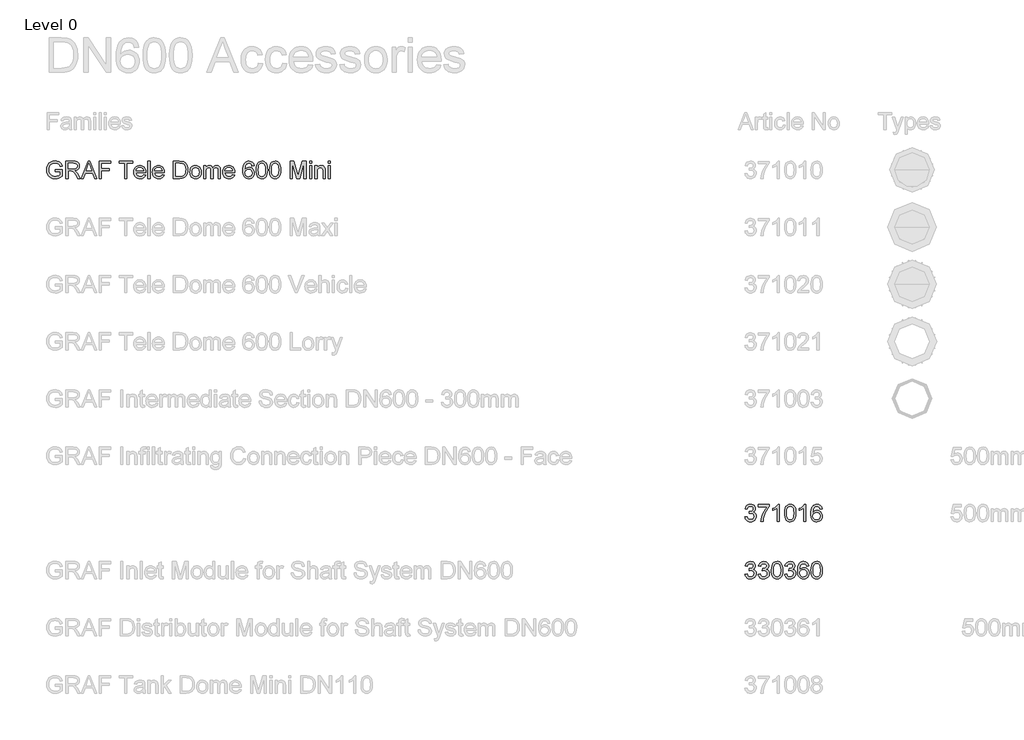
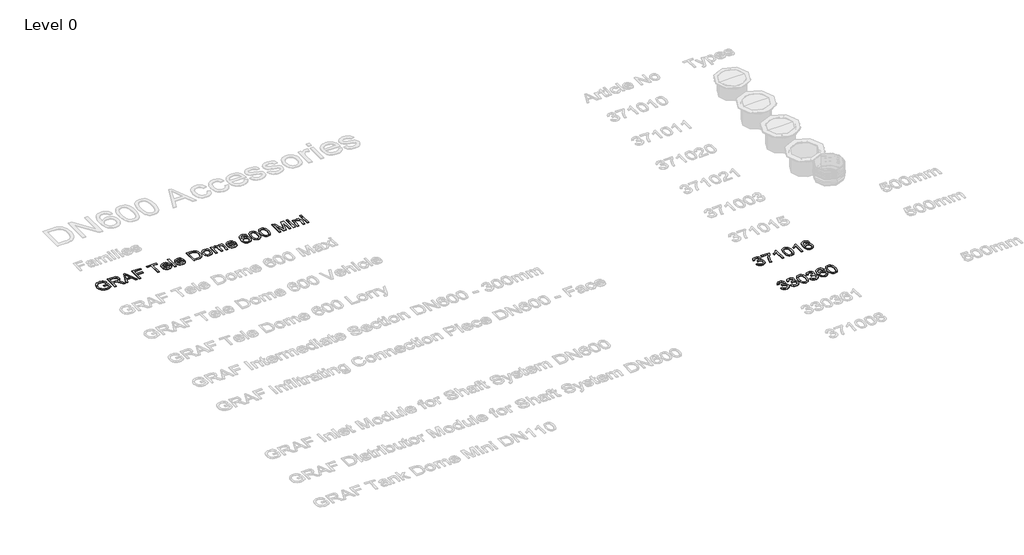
# One storey, part 21 of 25: 3 proxies.
"""IFC4 building model written with IfcOpenShell, lengths in millimetres."""

from ifc_helpers import new_model, si_unit, origin, origin_with_axes, place, context, project, spatial, polyline, outline, extrude, element, save

model = new_model("IFC4")

# Units and contexts
model_context = context("Model", 3, world=origin())
ifc_project = project(units=[si_unit("LENGTHUNIT", "METRE", prefix="MILLI")], contexts=[model_context])

# Site, building, storey
site = spatial("IfcSite", under=ifc_project)
building = spatial("IfcBuilding", under=site)
storey = spatial("IfcBuildingStorey", under=building, Name="Level 0", Elevation=0.0)

# Proxies
placement = place(None, origin())
element("IfcBuildingElementProxy", 1, Name="300mm Arial", ObjectType="300mm Arial", at=placement, inside=storey, context=model_context, shape_type="SweptSolid", body=[
    extrude(outline(polyline([(-15240.9940387, 7916.7454403), (-15240.9940387, 7954.4165566), (-15118.5629107, 7954.4165566), (-15118.5629107, 7841.7710897), (-15148.3153671, 7821.0777274), (-15179.0059225, 7806.2336889), (-15210.5610007, 7797.2941564), (-15242.9070251, 7794.3143123), (-15285.1674693, 7799.050793), (-15323.3628175, 7813.260235), (-15355.0926395, 7836.4459978), (-15377.9565055, 7868.1114405), (-15391.7796715, 7906.0952565), (-15396.3873935, 7948.2361391), (-15391.7980656, 7990.6805243), (-15378.0300819, 8030.1634594), (-15355.6536596, 8063.282036), (-15325.2390156, 8086.6333457), (-15288.1932987, 8100.4841028), (-15245.9236575, 8105.1010218), (-15214.8928112, 8102.4246803), (-15186.9889618, 8094.3956557), (-15163.4904994, 8081.5933623), (-15145.6758138, 8064.5972141), (-15132.4964413, 8042.5886738), (-15122.9039183, 8014.7492038), (-15157.6319786, 8004.9635427), (-15165.3850917, 8024.8199734), (-15174.8120678, 8039.8019677), (-15187.2832674, 8051.0959449), (-15204.169051, 8059.8883246), (-15224.3013932, 8065.5445103), (-15246.5122687, 8067.4299055), (-15272.5123287, 8065.3973575), (-15294.7415982, 8059.2997134), (-15313.1173039, 8049.9003284), (-15327.5566722, 8037.9625577), (-15346.9440533, 8008.9366683), (-15355.7732212, 7980.49939), (-15358.7162772, 7949.7812434), (-15355.175413, 7913.7563991), (-15344.5528204, 7884.1143073), (-15327.1703961, 7861.0665003), (-15303.3500369, 7844.8245102), (-15275.4737787, 7835.195199), (-15245.9236575, 7831.9854286), (-15219.831627, 7834.4042527), (-15194.3833899, 7841.6607251), (-15172.2828791, 7851.6579183), (-15156.234027, 7862.298905), (-15156.234027, 7916.7454403), (-15240.9940387, 7916.7454403)])), origin_with_axes(), (0.0, 0.0, 1.0), 10.0),
    extrude(outline(polyline([(-15057.3473467, 7799.0232018), (-15057.3473467, 8100.3921323), (-14927.4850024, 8100.3921323), (-14892.5821982, 8098.3595842), (-14867.1891434, 8092.2619402), (-14848.6294968, 8081.0047511), (-14834.2269167, 8063.4935682), (-14824.9838815, 8041.7793334), (-14821.9028698, 8017.912989), (-14827.0072325, 7988.2249119), (-14842.3203206, 7963.6136065), (-14853.9200997, 7953.5842236), (-14868.3019865, 7945.5689946), (-14905.4120827, 7935.5809984), (-14884.0013506, 7919.467767), (-14853.467145, 7880.6930048), (-14803.2144645, 7799.0232018), (-14846.9924219, 7799.0232018), (-14886.2086426, 7861.4895646), (-14914.5355562, 7902.8395009), (-14934.4379722, 7922.3740348), (-14952.3538253, 7929.5477337), (-14974.2060158, 7930.8721089), (-15019.6762304, 7930.8721089), (-15019.6762304, 7799.0232018), (-15057.3473467, 7799.0232018)]), holes=[polyline([(-15019.6762304, 7968.5432252), (-14935.3576771, 7968.5432252), (-14911.1418448, 7969.8767974), (-14892.3522719, 7973.8775141), (-14878.2072092, 7980.8120897), (-14867.9249074, 7990.9472387), (-14861.6617165, 8003.2069062), (-14859.5739861, 8016.5150374), (-14863.5563087, 8034.890743), (-14875.5032765, 8049.6979933), (-14896.058683, 8059.4652603), (-14925.8663217, 8062.721016), (-15019.6762304, 8062.721016), (-15019.6762304, 7968.5432252)])]), origin_with_axes(), (0.0, 0.0, 1.0), 10.0),
    extrude(outline(polyline([(-14791.0743586, 7799.0232018), (-14670.7769462, 8100.3921323), (-14638.6976362, 8100.3921323), (-14518.4002238, 7799.0232018), (-14558.2050557, 7799.0232018), (-14592.7123868, 7893.2009926), (-14716.835772, 7893.2009926), (-14751.2695268, 7799.0232018), (-14791.0743586, 7799.0232018)]), holes=[polyline([(-14703.003409, 7930.8721089), (-14606.4711735, 7930.8721089), (-14633.6208647, 8004.9635427), (-14654.7372912, 8062.721016), (-14673.499273, 8011.4382658), (-14703.003409, 7930.8721089)])]), origin_with_axes(), (0.0, 0.0, 1.0), 10.0),
    extrude(outline(polyline([(-14478.1539335, 7799.0232018), (-14478.1539335, 8100.3921323), (-14275.6716834, 8100.3921323), (-14275.6716834, 8062.721016), (-14440.4828172, 8062.721016), (-14440.4828172, 7973.2521147), (-14299.2161311, 7973.2521147), (-14299.2161311, 7935.5809984), (-14440.4828172, 7935.5809984), (-14440.4828172, 7799.0232018), (-14478.1539335, 7799.0232018)])), origin_with_axes(), (0.0, 0.0, 1.0), 10.0),
    extrude(outline(polyline([(-14030.8094274, 7799.0232018), (-14030.8094274, 8062.721016), (-14129.6961077, 8062.721016), (-14129.6961077, 8100.3921323), (-13894.2516308, 8100.3921323), (-13894.2516308, 8062.721016), (-13993.1383111, 8062.721016), (-13993.1383111, 7799.0232018), (-14030.8094274, 7799.0232018)])), origin_with_axes(), (0.0, 0.0, 1.0), 10.0),
    extrude(outline(polyline([(-13701.6286181, 7864.9476554), (-13664.6932658, 7860.2387658), (-13678.001397, 7832.4084929), (-13699.2373851, 7811.6047661), (-13727.9229837, 7798.6369257), (-13763.5799461, 7794.3143123), (-13786.9542484, 7796.1790141), (-13807.7809678, 7801.7731197), (-13826.0601045, 7811.0966291), (-13841.7916583, 7824.1495421), (-13854.4422004, 7840.5685754), (-13863.4783019, 7859.9904455), (-13868.8999628, 7882.4151523), (-13870.7071831, 7907.842696), (-13868.8815687, 7934.1324631), (-13863.4047255, 7957.3044302), (-13854.2766535, 7977.3585975), (-13841.4973527, 7994.2949649), (-13825.8071856, 8007.7502488), (-13807.9465147, 8017.361166), (-13787.9153401, 8023.1277162), (-13765.7136617, 8025.0498997), (-13744.2270539, 8023.1323148), (-13724.7959868, 8017.3795601), (-13707.4204603, 8007.7916356), (-13692.1004744, 7994.3685413), (-13679.5947859, 7977.4689621), (-13670.6621512, 7957.451583), (-13665.3025704, 7934.3164041), (-13663.5160434, 7908.0634252), (-13663.7367726, 7897.9098821), (-13833.0360668, 7897.9098821), (-13826.5153584, 7869.7117272), (-13811.3678173, 7848.9815768), (-13789.5064297, 7836.2344656), (-13762.8441821, 7831.9854286), (-13742.7946134, 7833.9535973), (-13725.9088298, 7839.8581033), (-13712.1868314, 7850.0668287), (-13701.6286181, 7864.9476554)]), holes=[polyline([(-13833.0360668, 7935.5809984), (-13701.1871597, 7935.5809984), (-13706.2823254, 7955.4834144), (-13716.2703215, 7969.7204476), (-13738.2328766, 7982.9641994), (-13765.8608145, 7987.3787834), (-13791.2538692, 7983.8563132), (-13812.2507341, 7973.2889029), (-13826.8464522, 7956.8169866), (-13833.0360668, 7935.5809984)])]), origin_with_axes(), (0.0, 0.0, 1.0), 10.0),
    extrude(outline(polyline([(-13625.8449271, 7799.0232018), (-13625.8449271, 8100.3921323), (-13588.1738108, 8100.3921323), (-13588.1738108, 7799.0232018), (-13625.8449271, 7799.0232018)])), origin_with_axes(), (0.0, 0.0, 1.0), 10.0),
    extrude(outline(polyline([(-13376.71524, 7864.9476554), (-13339.7798877, 7860.2387658), (-13353.0880188, 7832.4084929), (-13374.324007, 7811.6047661), (-13403.0096056, 7798.6369257), (-13438.666568, 7794.3143123), (-13462.0408702, 7796.1790141), (-13482.8675897, 7801.7731197), (-13501.1467263, 7811.0966291), (-13516.8782801, 7824.1495421), (-13529.5288222, 7840.5685754), (-13538.5649238, 7859.9904455), (-13543.9865847, 7882.4151523), (-13545.793805, 7907.842696), (-13543.9681906, 7934.1324631), (-13538.4913474, 7957.3044302), (-13529.3632754, 7977.3585975), (-13516.5839745, 7994.2949649), (-13500.8938074, 8007.7502488), (-13483.0331366, 8017.361166), (-13463.0019619, 8023.1277162), (-13440.8002835, 8025.0498997), (-13419.3136758, 8023.1323148), (-13399.8826086, 8017.3795601), (-13382.5070821, 8007.7916356), (-13367.1870963, 7994.3685413), (-13354.6814077, 7977.4689621), (-13345.748773, 7957.451583), (-13340.3891922, 7934.3164041), (-13338.6026653, 7908.0634252), (-13338.8233945, 7897.9098821), (-13508.1226887, 7897.9098821), (-13501.6019803, 7869.7117272), (-13486.4544391, 7848.9815768), (-13464.5930516, 7836.2344656), (-13437.930804, 7831.9854286), (-13417.8812352, 7833.9535973), (-13400.9954517, 7839.8581033), (-13387.2734532, 7850.0668287), (-13376.71524, 7864.9476554)]), holes=[polyline([(-13508.1226887, 7935.5809984), (-13376.2737816, 7935.5809984), (-13381.3689472, 7955.4834144), (-13391.3569434, 7969.7204476), (-13413.3194985, 7982.9641994), (-13440.9474363, 7987.3787834), (-13466.3404911, 7983.8563132), (-13487.3373559, 7973.2889029), (-13501.9330741, 7956.8169866), (-13508.1226887, 7935.5809984)])]), origin_with_axes(), (0.0, 0.0, 1.0), 10.0),
    extrude(outline(polyline([(-13178.500421, 7799.0232018), (-13178.500421, 8100.3921323), (-13074.5369691, 8100.3921323), (-13020.7526214, 8096.0511247), (-12996.7299272, 8087.6818093), (-12976.4596292, 8074.4932398), (-12955.6191142, 8051.5374033), (-12940.7750757, 8022.9897605), (-12931.8907255, 7989.4021343), (-12928.9292754, 7951.3263478), (-12930.9342323, 7918.9803234), (-12936.9491029, 7890.515454), (-12946.1093646, 7866.2812276), (-12957.5504947, 7846.627132), (-12970.7206701, 7831.1117089), (-12985.0680679, 7819.2934998), (-13001.5399842, 7810.5287112), (-13021.0837152, 7804.1735498), (-13069.533774, 7799.0232018), (-13178.500421, 7799.0232018)]), holes=[polyline([(-13140.8293047, 7836.6943181), (-13074.1690871, 7836.6943181), (-13046.5963316, 7838.0554815), (-13025.6822402, 7842.1389717), (-13009.9001026, 7848.7056653), (-12997.7232085, 7857.5164391), (-12984.6358066, 7873.8228085), (-12974.8041602, 7894.930038), (-12968.6513339, 7920.930098), (-12966.6003918, 7951.914959), (-12970.6195026, 7992.9705897), (-12982.6768349, 8023.2840661), (-13000.4915206, 8044.106187), (-13021.782691, 8056.6877512), (-13043.4509405, 8061.2126998), (-13075.1991567, 8062.721016), (-13140.8293047, 8062.721016), (-13140.8293047, 7836.6943181)])]), origin_with_axes(), (0.0, 0.0, 1.0), 10.0),
    extrude(outline(polyline([(-12891.2581591, 7909.682106), (-12889.2210126, 7938.3447119), (-12883.1095729, 7963.0433894), (-12872.9238402, 7983.7781383), (-12858.6638144, 8000.5489588), (-12844.3072195, 8011.2681204), (-12828.4607026, 8018.9246644), (-12811.1242635, 8023.5185909), (-12792.2979024, 8025.0498997), (-12771.514869, 8023.1851978), (-12752.7229968, 8017.5910922), (-12735.9222859, 8008.2675829), (-12721.1127364, 7995.2146698), (-12709.0255136, 7978.8738115), (-12700.391783, 7959.6864662), (-12695.2115447, 7937.6526339), (-12693.4847985, 7912.7723147), (-12696.5382191, 7874.7149223), (-12705.6984808, 7845.7442152), (-12720.6988691, 7824.0483745), (-12741.2726697, 7807.8155815), (-12765.7092312, 7797.6896296), (-12792.2979024, 7794.3143123), (-12813.3844386, 7796.1721164), (-12832.3510547, 7801.7455286), (-12849.1977508, 7811.034549), (-12863.9245269, 7824.0391775), (-12875.882991, 7840.538685), (-12884.4247511, 7860.3123422), (-12889.5498071, 7883.3601492), (-12891.2581591, 7909.682106)]), holes=[polyline([(-12853.5870428, 7909.7556824), (-12849.2276412, 7875.6622185), (-12836.1494363, 7851.3728097), (-12816.4677495, 7836.8322739), (-12792.2979024, 7831.9854286), (-12768.23842, 7836.859865), (-12748.5935214, 7851.4831743), (-12735.5153165, 7876.0944798), (-12731.1559148, 7910.9329048), (-12735.5429076, 7944.0330873), (-12748.703886, 7967.9914022), (-12768.3763757, 7982.5319381), (-12792.2979024, 7987.3787834), (-12816.4677495, 7982.5503322), (-12836.1494363, 7968.0649786), (-12849.2276412, 7943.8307522), (-12853.5870428, 7909.7556824)])]), origin_with_axes(), (0.0, 0.0, 1.0), 10.0),
    extrude(outline(polyline([(-12651.1047927, 7799.0232018), (-12651.1047927, 8020.3410101), (-12613.4336764, 8020.3410101), (-12613.4336764, 7983.9206926), (-12602.1029109, 8000.6501263), (-12587.5347839, 8013.7559224), (-12570.2259361, 8022.2264053), (-12550.673008, 8025.0498997), (-12529.7221284, 8022.171223), (-12512.9283153, 8013.5351932), (-12500.3835393, 7999.7120272), (-12492.1797708, 7981.2719422), (-12478.4485753, 8000.4247986), (-12462.7859994, 8014.1054103), (-12445.1920429, 8022.3137773), (-12425.666706, 8025.0498997), (-12397.3489895, 8020.49736), (-12376.4073069, 8006.8397409), (-12363.4670577, 7983.7091605), (-12359.1536413, 7950.7377366), (-12359.1536413, 7799.0232018), (-12396.8247576, 7799.0232018), (-12396.8247576, 7934.5509288), (-12400.3196366, 7966.0048394), (-12405.2308612, 7974.6776575), (-12412.9747772, 7981.4926714), (-12422.9351822, 7985.9072554), (-12434.4958739, 7987.3787834), (-12454.9041276, 7983.6079929), (-12471.5415908, 7972.2956216), (-12482.6056419, 7952.6691171), (-12486.2936589, 7923.9559274), (-12486.2936589, 7799.0232018), (-12523.9647752, 7799.0232018), (-12523.9647752, 7938.7447836), (-12526.144476, 7960.0451511), (-12532.6835784, 7975.2386775), (-12544.1890878, 7984.3437569), (-12561.2680095, 7987.3787834), (-12575.7809542, 7985.3554324), (-12589.1534647, 7979.2853795), (-12600.1899246, 7969.3157774), (-12607.6947173, 7955.593779), (-12611.9989366, 7936.5558857), (-12613.4336764, 7910.6385992), (-12613.4336764, 7799.0232018), (-12651.1047927, 7799.0232018)])), origin_with_axes(), (0.0, 0.0, 1.0), 10.0),
    extrude(outline(polyline([(-12147.6950705, 7864.9476554), (-12110.7597182, 7860.2387658), (-12124.0678494, 7832.4084929), (-12145.3038375, 7811.6047661), (-12173.9894361, 7798.6369257), (-12209.6463985, 7794.3143123), (-12233.0207007, 7796.1790141), (-12253.8474202, 7801.7731197), (-12272.1265568, 7811.0966291), (-12287.8581107, 7824.1495421), (-12300.5086528, 7840.5685754), (-12309.5447543, 7859.9904455), (-12314.9664152, 7882.4151523), (-12316.7736355, 7907.842696), (-12314.9480211, 7934.1324631), (-12309.4711779, 7957.3044302), (-12300.3431059, 7977.3585975), (-12287.5638051, 7994.2949649), (-12271.873638, 8007.7502488), (-12254.0129671, 8017.361166), (-12233.9817925, 8023.1277162), (-12211.7801141, 8025.0498997), (-12190.2935063, 8023.1323148), (-12170.8624391, 8017.3795601), (-12153.4869127, 8007.7916356), (-12138.1669268, 7994.3685413), (-12125.6612382, 7977.4689621), (-12116.7286035, 7957.451583), (-12111.3690227, 7934.3164041), (-12109.5824958, 7908.0634252), (-12109.803225, 7897.9098821), (-12279.1025192, 7897.9098821), (-12272.5818108, 7869.7117272), (-12257.4342697, 7848.9815768), (-12235.5728821, 7836.2344656), (-12208.9106345, 7831.9854286), (-12188.8610658, 7833.9535973), (-12171.9752822, 7839.8581033), (-12158.2532838, 7850.0668287), (-12147.6950705, 7864.9476554)]), holes=[polyline([(-12279.1025192, 7935.5809984), (-12147.2536121, 7935.5809984), (-12152.3487777, 7955.4834144), (-12162.3367739, 7969.7204476), (-12184.299329, 7982.9641994), (-12211.9272668, 7987.3787834), (-12237.3203216, 7983.8563132), (-12258.3171864, 7973.2889029), (-12272.9129046, 7956.8169866), (-12279.1025192, 7935.5809984)])]), origin_with_axes(), (0.0, 0.0, 1.0), 10.0),
    extrude(outline(polyline([(-11770.542449, 8020.3410101), (-11808.2135653, 8015.6321206), (-11814.2836183, 8034.3021318), (-11822.4873868, 8047.049243), (-11839.5755054, 8058.8030727), (-11860.2320795, 8062.721016), (-11877.7432624, 8060.4401476), (-11894.2243758, 8053.5975425), (-11908.3786356, 8039.1857653), (-11919.9393273, 8019.3477287), (-11927.7476226, 7991.2875296), (-11930.6446933, 7952.2092646), (-11915.5339404, 7969.8400092), (-11897.4249492, 7982.2652236), (-11877.3293952, 7989.6320606), (-11856.2589539, 7992.0876729), (-11838.1591597, 7990.4092113), (-11821.4573172, 7985.3738265), (-11806.1534262, 7976.9815185), (-11792.2474868, 7965.2322872), (-11780.6913936, 7950.8251086), (-11772.4370413, 7934.4589583), (-11767.48443, 7916.1338365), (-11765.8335595, 7895.849743), (-11768.9421624, 7868.8747957), (-11778.2679709, 7843.868017), (-11793.038433, 7822.65962), (-11812.4809965, 7807.0798175), (-11835.7127445, 7797.5056886), (-11861.8507602, 7794.3143123), (-11884.3076568, 7796.4296338), (-11904.589451, 7802.7755982), (-11922.696143, 7813.3522055), (-11938.6277326, 7828.1594558), (-11951.6162663, 7847.8227485), (-11960.8937904, 7872.9674829), (-11966.4603048, 7903.593659), (-11968.3158096, 7939.7012768), (-11966.2556705, 7980.1820918), (-11960.075253, 8014.7308097), (-11949.7745571, 8043.3474304), (-11935.3535829, 8066.0319539), (-11919.7231966, 8081.0645319), (-11901.6004098, 8091.8020877), (-11880.9852225, 8098.2446211), (-11857.8776347, 8100.3921323), (-11824.8234374, 8095.0762374), (-11798.3543279, 8079.1285529), (-11779.8130753, 8053.7998776), (-11770.542449, 8020.3410101)]), holes=[polyline([(-11930.6446933, 7896.4383541), (-11928.4649925, 7879.7457086), (-11921.9258901, 7863.8072212), (-11911.772347, 7850.1036169), (-11898.7493244, 7840.1156207), (-11883.0315661, 7834.0179766), (-11864.7938162, 7831.9854286), (-11839.9341904, 7836.1976774), (-11820.3904594, 7848.834424), (-11807.7261217, 7868.7000517), (-11803.5046758, 7894.5989442), (-11807.6709394, 7919.45857), (-11820.1697302, 7938.4136898), (-11840.044555, 7950.4158399), (-11866.3389206, 7954.4165566), (-11891.1617582, 7950.4158399), (-11911.9194998, 7938.4136898), (-11925.9633949, 7919.9184225), (-11930.6446933, 7896.4383541)])]), origin_with_axes(), (0.0, 0.0, 1.0), 10.0),
    extrude(outline(polyline([(-11732.8713327, 7947.2796459), (-11730.1030207, 7995.5181725), (-11721.7980847, 8033.9894321), (-11708.0392981, 8063.282036), (-11688.9094343, 8083.9845953), (-11664.2705377, 8096.290248), (-11633.9846524, 8100.3921323), (-11610.7712985, 8097.9641111), (-11589.9859658, 8090.6800476), (-11572.6035415, 8078.8250503), (-11559.598913, 8062.6842278), (-11549.7764637, 8042.3955357), (-11541.9405772, 8018.0969299), (-11536.8086234, 7987.2408276), (-11535.0979721, 7947.2796459), (-11537.838693, 7899.3170308), (-11546.0608556, 7860.9377416), (-11559.7368687, 7831.6175466), (-11578.8391413, 7810.8322139), (-11603.5332203, 7798.4437877), (-11633.9846524, 7794.3143123), (-11654.733197, 7796.107737), (-11673.1272967, 7801.4880112), (-11689.1669517, 7810.4551348), (-11702.8521619, 7823.0091079), (-11715.9855492, 7845.7028285), (-11725.36654, 7873.9791583), (-11730.9951346, 7907.8380975), (-11732.8713327, 7947.2796459)]), holes=[polyline([(-11695.2002164, 7947.3532223), (-11690.7856325, 7888.0966299), (-11685.2674026, 7867.8286312), (-11677.5418807, 7853.8008309), (-11657.8234057, 7837.4392792), (-11633.9846524, 7831.9854286), (-11610.1458991, 7837.4576733), (-11590.4274242, 7853.8744073), (-11582.7019023, 7867.9252003), (-11577.1836724, 7888.1886004), (-11572.7690884, 7947.3532223), (-11577.0365196, 8005.2762424), (-11582.3708085, 8025.4775625), (-11589.838813, 8039.8387559), (-11609.5204997, 8057.0004509), (-11634.4261108, 8062.721016), (-11658.0073467, 8057.6810326), (-11676.9532695, 8042.5610826), (-11684.9363088, 8026.9260978), (-11690.6384797, 8005.8464595), (-11695.2002164, 7947.3532223)])]), origin_with_axes(), (0.0, 0.0, 1.0), 10.0),
    extrude(outline(polyline([(-11502.1357454, 7947.2796459), (-11499.3674333, 7995.5181725), (-11491.0624973, 8033.9894321), (-11477.3037107, 8063.282036), (-11458.1738469, 8083.9845953), (-11433.5349503, 8096.290248), (-11403.2490651, 8100.3921323), (-11380.0357112, 8097.9641111), (-11359.2503784, 8090.6800476), (-11341.8679542, 8078.8250503), (-11328.8633256, 8062.6842278), (-11319.0408764, 8042.3955357), (-11311.2049899, 8018.0969299), (-11306.073036, 7987.2408276), (-11304.3623847, 7947.2796459), (-11307.1031056, 7899.3170308), (-11315.3252682, 7860.9377416), (-11329.0012814, 7831.6175466), (-11348.103554, 7810.8322139), (-11372.7976329, 7798.4437877), (-11403.2490651, 7794.3143123), (-11423.9976096, 7796.107737), (-11442.3917093, 7801.4880112), (-11458.4313643, 7810.4551348), (-11472.1165745, 7823.0091079), (-11485.2499618, 7845.7028285), (-11494.6309527, 7873.9791583), (-11500.2595472, 7907.8380975), (-11502.1357454, 7947.2796459)]), holes=[polyline([(-11464.464629, 7947.3532223), (-11460.0500451, 7888.0966299), (-11454.5318152, 7867.8286312), (-11446.8062933, 7853.8008309), (-11427.0878183, 7837.4392792), (-11403.2490651, 7831.9854286), (-11379.4103118, 7837.4576733), (-11359.6918368, 7853.8744073), (-11351.9663149, 7867.9252003), (-11346.448085, 7888.1886004), (-11342.0335011, 7947.3532223), (-11346.3009322, 8005.2762424), (-11351.6352211, 8025.4775625), (-11359.1032256, 8039.8387559), (-11378.7849124, 8057.0004509), (-11403.6905234, 8062.721016), (-11427.2717593, 8057.6810326), (-11446.2176821, 8042.5610826), (-11454.2007214, 8026.9260978), (-11459.9028923, 8005.8464595), (-11464.464629, 7947.3532223)])]), origin_with_axes(), (0.0, 0.0, 1.0), 10.0),
    extrude(outline(polyline([(-11139.5512509, 7799.0232018), (-11139.5512509, 8100.3921323), (-11074.7304434, 8100.3921323), (-11013.073421, 7887.9770683), (-11000.6390095, 7843.6104996), (-10987.1745285, 7891.6558882), (-10926.5475757, 8100.3921323), (-10861.7267682, 8100.3921323), (-10861.7267682, 7799.0232018), (-10899.3978845, 7799.0232018), (-10899.3978845, 8062.721016), (-10975.1079991, 7799.0232018), (-11026.17002, 7799.0232018), (-11101.8801346, 8062.721016), (-11101.8801346, 7799.0232018), (-11139.5512509, 7799.0232018)])), origin_with_axes(), (0.0, 0.0, 1.0), 10.0),
    extrude(outline(polyline([(-10800.5112042, 8062.721016), (-10800.5112042, 8100.3921323), (-10762.8400878, 8100.3921323), (-10762.8400878, 8062.721016), (-10800.5112042, 8062.721016)])), origin_with_axes(), (0.0, 0.0, 1.0), 10.0),
    extrude(outline(polyline([(-10800.5112042, 7799.0232018), (-10800.5112042, 8020.3410101), (-10762.8400878, 8020.3410101), (-10762.8400878, 7799.0232018), (-10800.5112042, 7799.0232018)])), origin_with_axes(), (0.0, 0.0, 1.0), 10.0),
    extrude(outline(polyline([(-10706.3334134, 7799.0232018), (-10706.3334134, 8020.3410101), (-10668.6622971, 8020.3410101), (-10668.6622971, 7989.4389225), (-10655.5748951, 8005.018725), (-10639.8571369, 8016.1471554), (-10621.5090224, 8022.8242136), (-10600.5305516, 8025.0498997), (-10581.9617079, 8023.2564749), (-10564.9563626, 8017.8762008), (-10550.7745117, 8009.5804618), (-10540.676151, 7999.0406426), (-10529.3821737, 7971.3391284), (-10527.3956109, 7934.9188108), (-10527.3956109, 7799.0232018), (-10565.0667272, 7799.0232018), (-10565.0667272, 7929.8420393), (-10569.4077348, 7963.1721481), (-10575.4134084, 7973.0957649), (-10584.748414, 7980.7936956), (-10596.7137759, 7985.7325114), (-10610.6105182, 7987.3787834), (-10632.6742409, 7983.6815693), (-10651.4822079, 7972.5899271), (-10658.9984969, 7963.5354315), (-10664.3672748, 7951.1608009), (-10668.6622971, 7916.4511347), (-10668.6622971, 7799.0232018), (-10706.3334134, 7799.0232018)])), origin_with_axes(), (0.0, 0.0, 1.0), 10.0),
    extrude(outline(polyline([(-10475.597826, 8062.721016), (-10475.597826, 8100.3921323), (-10437.9267097, 8100.3921323), (-10437.9267097, 8062.721016), (-10475.597826, 8062.721016)])), origin_with_axes(), (0.0, 0.0, 1.0), 10.0),
    extrude(outline(polyline([(-10475.597826, 7799.0232018), (-10475.597826, 8020.3410101), (-10437.9267097, 8020.3410101), (-10437.9267097, 7799.0232018), (-10475.597826, 7799.0232018)])), origin_with_axes(), (0.0, 0.0, 1.0), 10.0),
])
element("IfcBuildingElementProxy", 2, Name="300mm Arial", ObjectType="300mm Arial", at=placement, inside=storey, context=model_context, shape_type="SweptSolid", body=[
    extrude(outline(polyline([(-3192.0538732, 1879.074324), (-3154.3827568, 1883.7832135), (-3145.9490621, 1860.1100071), (-3133.5974241, 1844.1255344), (-3116.7208376, 1835.020455), (-3094.7122972, 1831.9854286), (-3068.8869812, 1836.1608892), (-3048.947777, 1848.6872712), (-3036.2006659, 1867.3756765), (-3031.9516289, 1890.0372074), (-3036.1638777, 1911.5491071), (-3048.8006242, 1928.9959107), (-3067.930488, 1940.5566024), (-3091.6220885, 1944.4101663), (-3118.0360157, 1940.289888), (-3113.842161, 1977.9610043), (-3107.8088963, 1977.5195459), (-3085.2393359, 1980.2234785), (-3065.0610084, 1988.3352765), (-3050.8239752, 2002.057275), (-3046.0782975, 2021.5918089), (-3049.5179941, 2037.8613901), (-3059.8370841, 2051.0591567), (-3075.5824335, 2059.8055512), (-3095.3009084, 2062.721016), (-3115.0561716, 2059.77796), (-3131.2061912, 2050.9487921), (-3142.9968091, 2036.2335123), (-3149.6738673, 2015.6321206), (-3187.3449836, 2020.3410101), (-3176.2533415, 2054.1677596), (-3156.5164724, 2079.4228585), (-3129.513934, 2095.1498138), (-3096.6252836, 2100.3921323), (-3072.9428802, 2097.8077613), (-3051.1918572, 2090.0546482), (-3032.8529397, 2077.8225719), (-3019.4068528, 2061.801311), (-3011.1570991, 2043.3428319), (-3008.4071812, 2023.7991009), (-3011.0191433, 2005.5889421), (-3018.8550298, 1989.0710405), (-3031.8044761, 1974.9995542), (-3049.7571174, 1964.1286413), (-3026.1758815, 1954.6004976), (-3008.7014868, 1938.3769016), (-2997.8857561, 1916.3407701), (-2994.2805125, 1889.3750198), (-2996.0831343, 1870.2635502), (-3001.4909997, 1852.6603967), (-3010.5041085, 1836.5655594), (-3023.122461, 1821.9790383), (-3038.4953298, 1809.8757207), (-3055.771988, 1801.2304938), (-3074.9524356, 1796.0433577), (-3096.0366724, 1794.3143123), (-3115.0929598, 1795.7904388), (-3132.4569899, 1800.2188183), (-3148.1287629, 1807.5994508), (-3162.1082787, 1817.9323364), (-3173.8299188, 1830.6104696), (-3182.7280646, 1845.0268453), (-3188.802716, 1861.1814634), (-3192.0538732, 1879.074324)])), origin_with_axes(), (0.0, 0.0, 1.0), 10.0),
    extrude(outline(polyline([(-2961.3182858, 2058.0121264), (-2961.3182858, 2095.6832427), (-2763.5449252, 2095.6832427), (-2763.5449252, 2065.2226135), (-2791.7338831, 2029.547257), (-2819.6469294, 1984.17821), (-2844.267432, 1933.2541448), (-2862.5787583, 1880.9137339), (-2871.555079, 1841.7526956), (-2876.5582741, 1799.0232018), (-2914.2293904, 1799.0232018), (-2910.1550973, 1837.8531464), (-2899.2565932, 1884.0039427), (-2881.8281837, 1932.923051), (-2858.1641743, 1980.0579316), (-2830.5362365, 2022.6678637), (-2801.2160415, 2058.0121264), (-2961.3182858, 2058.0121264)])), origin_with_axes(), (0.0, 0.0, 1.0), 10.0),
    extrude(outline(polyline([(-2589.3160123, 1799.0232018), (-2626.9871286, 1799.0232018), (-2626.9871286, 2033.8790675), (-2662.6716821, 2008.4584217), (-2702.3293612, 1989.4389225), (-2702.3293612, 2025.0498997), (-2672.7424517, 2041.1447369), (-2647.1102737, 2060.2929948), (-2626.9043551, 2080.6552632), (-2613.5962239, 2100.3921323), (-2589.3160123, 2100.3921323), (-2589.3160123, 1799.0232018)])), origin_with_axes(), (0.0, 0.0, 1.0), 10.0),
    extrude(outline(polyline([(-2499.847111, 1947.2796459), (-2497.078799, 1995.5181725), (-2488.773863, 2033.9894321), (-2475.0150764, 2063.282036), (-2455.8852126, 2083.9845953), (-2431.246316, 2096.290248), (-2400.9604307, 2100.3921323), (-2377.7470768, 2097.9641111), (-2356.9617441, 2090.6800476), (-2339.5793198, 2078.8250503), (-2326.5746913, 2062.6842278), (-2316.752242, 2042.3955357), (-2308.9163555, 2018.0969299), (-2303.7844017, 1987.2408276), (-2302.0737504, 1947.2796459), (-2304.8144713, 1899.3170308), (-2313.0366339, 1860.9377416), (-2326.7126471, 1831.6175466), (-2345.8149197, 1810.8322139), (-2370.5089986, 1798.4437877), (-2400.9604307, 1794.3143123), (-2421.7089753, 1796.107737), (-2440.103075, 1801.4880112), (-2456.14273, 1810.4551348), (-2469.8279402, 1823.0091079), (-2482.9613275, 1845.7028285), (-2492.3423183, 1873.9791583), (-2497.9709129, 1907.8380975), (-2499.847111, 1947.2796459)]), holes=[polyline([(-2462.1759947, 1947.3532223), (-2457.7614108, 1888.0966299), (-2452.2431809, 1867.8286312), (-2444.517659, 1853.8008309), (-2424.799184, 1837.4392792), (-2400.9604307, 1831.9854286), (-2377.1216774, 1837.4576733), (-2357.4032025, 1853.8744073), (-2349.6776806, 1867.9252003), (-2344.1594507, 1888.1886004), (-2339.7448667, 1947.3532223), (-2344.0122979, 2005.2762424), (-2349.3465868, 2025.4775625), (-2356.8145913, 2039.8387559), (-2376.496278, 2057.0004509), (-2401.4018891, 2062.721016), (-2424.983125, 2057.6810326), (-2443.9290478, 2042.5610826), (-2451.9120871, 2026.9260978), (-2457.614258, 2005.8464595), (-2462.1759947, 1947.3532223)])]), origin_with_axes(), (0.0, 0.0, 1.0), 10.0),
    extrude(outline(polyline([(-2127.8448375, 1799.0232018), (-2165.5159538, 1799.0232018), (-2165.5159538, 2033.8790675), (-2201.2005073, 2008.4584217), (-2240.8581864, 1989.4389225), (-2240.8581864, 2025.0498997), (-2211.271277, 2041.1447369), (-2185.639099, 2060.2929948), (-2165.4331804, 2080.6552632), (-2152.1250492, 2100.3921323), (-2127.8448375, 2100.3921323), (-2127.8448375, 1799.0232018)])), origin_with_axes(), (0.0, 0.0, 1.0), 10.0),
    extrude(outline(polyline([(-1845.3114652, 2020.3410101), (-1882.9825815, 2015.6321206), (-1889.0526344, 2034.3021318), (-1897.2564029, 2047.049243), (-1914.3445216, 2058.8030727), (-1935.0010956, 2062.721016), (-1952.5122786, 2060.4401476), (-1968.993392, 2053.5975425), (-1983.1476518, 2039.1857653), (-1994.7083435, 2019.3477287), (-2002.5166388, 1991.2875296), (-2005.4137095, 1952.2092646), (-1990.3029566, 1969.8400092), (-1972.1939653, 1982.2652236), (-1952.0984114, 1989.6320606), (-1931.0279701, 1992.0876729), (-1912.9281759, 1990.4092113), (-1896.2263333, 1985.3738265), (-1880.9224423, 1976.9815185), (-1867.0165029, 1965.2322872), (-1855.4604098, 1950.8251086), (-1847.2060575, 1934.4589583), (-1842.2534461, 1916.1338365), (-1840.6025757, 1895.849743), (-1843.7111785, 1868.8747957), (-1853.0369871, 1843.868017), (-1867.8074492, 1822.65962), (-1887.2500127, 1807.0798175), (-1910.4817607, 1797.5056886), (-1936.6197764, 1794.3143123), (-1959.076673, 1796.4296338), (-1979.3584672, 1802.7755982), (-1997.4651592, 1813.3522055), (-2013.3967488, 1828.1594558), (-2026.3852825, 1847.8227485), (-2035.6628066, 1872.9674829), (-2041.229321, 1903.593659), (-2043.0848258, 1939.7012768), (-2041.0246866, 1980.1820918), (-2034.8442691, 2014.7308097), (-2024.5435733, 2043.3474304), (-2010.1225991, 2066.0319539), (-1994.4922128, 2081.0645319), (-1976.369426, 2091.8020877), (-1955.7542387, 2098.2446211), (-1932.6466509, 2100.3921323), (-1899.5924536, 2095.0762374), (-1873.123344, 2079.1285529), (-1854.5820915, 2053.7998776), (-1845.3114652, 2020.3410101)]), holes=[polyline([(-2005.4137095, 1896.4383541), (-2003.2340087, 1879.7457086), (-1996.6949062, 1863.8072212), (-1986.5413632, 1850.1036169), (-1973.5183405, 1840.1156207), (-1957.8005823, 1834.0179766), (-1939.5628324, 1831.9854286), (-1914.7032066, 1836.1976774), (-1895.1594756, 1848.834424), (-1882.4951379, 1868.7000517), (-1878.273692, 1894.5989442), (-1882.4399556, 1919.45857), (-1894.9387464, 1938.4136898), (-1914.8135712, 1950.4158399), (-1941.1079368, 1954.4165566), (-1965.9307744, 1950.4158399), (-1986.688516, 1938.4136898), (-2000.7324111, 1919.9184225), (-2005.4137095, 1896.4383541)])]), origin_with_axes(), (0.0, 0.0, 1.0), 10.0),
])
element("IfcBuildingElementProxy", 3, Name="300mm Arial", ObjectType="300mm Arial", at=placement, inside=storey, context=model_context, shape_type="SweptSolid", body=[
    extrude(outline(polyline([(-3192.0538732, 879.074324), (-3154.3827568, 883.7832135), (-3145.9490621, 860.1100071), (-3133.5974241, 844.1255344), (-3116.7208376, 835.020455), (-3094.7122972, 831.9854286), (-3068.8869812, 836.1608892), (-3048.947777, 848.6872712), (-3036.2006659, 867.3756765), (-3031.9516289, 890.0372074), (-3036.1638777, 911.5491071), (-3048.8006242, 928.9959107), (-3067.930488, 940.5566024), (-3091.6220885, 944.4101663), (-3118.0360157, 940.289888), (-3113.842161, 977.9610043), (-3107.8088963, 977.5195459), (-3085.2393359, 980.2234785), (-3065.0610084, 988.3352765), (-3050.8239752, 1002.057275), (-3046.0782975, 1021.5918089), (-3049.5179941, 1037.8613901), (-3059.8370841, 1051.0591567), (-3075.5824335, 1059.8055512), (-3095.3009084, 1062.721016), (-3115.0561716, 1059.77796), (-3131.2061912, 1050.9487921), (-3142.9968091, 1036.2335123), (-3149.6738673, 1015.6321206), (-3187.3449836, 1020.3410101), (-3176.2533415, 1054.1677596), (-3156.5164724, 1079.4228585), (-3129.513934, 1095.1498138), (-3096.6252836, 1100.3921323), (-3072.9428802, 1097.8077613), (-3051.1918572, 1090.0546482), (-3032.8529397, 1077.8225719), (-3019.4068528, 1061.801311), (-3011.1570991, 1043.3428319), (-3008.4071812, 1023.7991009), (-3011.0191433, 1005.5889421), (-3018.8550298, 989.0710405), (-3031.8044761, 974.9995542), (-3049.7571174, 964.1286413), (-3026.1758815, 954.6004976), (-3008.7014868, 938.3769016), (-2997.8857561, 916.3407701), (-2994.2805125, 889.3750198), (-2996.0831343, 870.2635502), (-3001.4909997, 852.6603967), (-3010.5041085, 836.5655594), (-3023.122461, 821.9790383), (-3038.4953298, 809.8757207), (-3055.771988, 801.2304938), (-3074.9524356, 796.0433577), (-3096.0366724, 794.3143123), (-3115.0929598, 795.7904388), (-3132.4569899, 800.2188183), (-3148.1287629, 807.5994508), (-3162.1082787, 817.9323364), (-3173.8299188, 830.6104696), (-3182.7280646, 845.0268453), (-3188.802716, 861.1814634), (-3192.0538732, 879.074324)])), origin_with_axes(), (0.0, 0.0, 1.0), 10.0),
    extrude(outline(polyline([(-2961.3182858, 879.074324), (-2923.6471695, 883.7832135), (-2915.2134747, 860.1100071), (-2902.8618367, 844.1255344), (-2885.9852502, 835.020455), (-2863.9767099, 831.9854286), (-2838.1513938, 836.1608892), (-2818.2121897, 848.6872712), (-2805.4650785, 867.3756765), (-2801.2160415, 890.0372074), (-2805.4282903, 911.5491071), (-2818.0650369, 928.9959107), (-2837.1949006, 940.5566024), (-2860.8865011, 944.4101663), (-2887.3004284, 940.289888), (-2883.1065736, 977.9610043), (-2877.0733089, 977.5195459), (-2854.5037485, 980.2234785), (-2834.325421, 988.3352765), (-2820.0883878, 1002.057275), (-2815.3427101, 1021.5918089), (-2818.7824067, 1037.8613901), (-2829.1014967, 1051.0591567), (-2844.8468461, 1059.8055512), (-2864.565321, 1062.721016), (-2884.3205842, 1059.77796), (-2900.4706038, 1050.9487921), (-2912.2612217, 1036.2335123), (-2918.9382799, 1015.6321206), (-2956.6093962, 1020.3410101), (-2945.5177541, 1054.1677596), (-2925.780885, 1079.4228585), (-2898.7783466, 1095.1498138), (-2865.8896962, 1100.3921323), (-2842.2072928, 1097.8077613), (-2820.4562698, 1090.0546482), (-2802.1173524, 1077.8225719), (-2788.6712654, 1061.801311), (-2780.4215117, 1043.3428319), (-2777.6715938, 1023.7991009), (-2780.283556, 1005.5889421), (-2788.1194425, 989.0710405), (-2801.0688887, 974.9995542), (-2819.02153, 964.1286413), (-2795.4402942, 954.6004976), (-2777.9658994, 938.3769016), (-2767.1501687, 916.3407701), (-2763.5449252, 889.3750198), (-2765.3475469, 870.2635502), (-2770.7554123, 852.6603967), (-2779.7685212, 836.5655594), (-2792.3868736, 821.9790383), (-2807.7597425, 809.8757207), (-2825.0364007, 801.2304938), (-2844.2168482, 796.0433577), (-2865.301085, 794.3143123), (-2884.3573724, 795.7904388), (-2901.7214026, 800.2188183), (-2917.3931756, 807.5994508), (-2931.3726914, 817.9323364), (-2943.0943314, 830.6104696), (-2951.9924772, 845.0268453), (-2958.0671286, 861.1814634), (-2961.3182858, 879.074324)])), origin_with_axes(), (0.0, 0.0, 1.0), 10.0),
    extrude(outline(polyline([(-2730.5826984, 947.2796459), (-2727.8143864, 995.5181725), (-2719.5094504, 1033.9894321), (-2705.7506637, 1063.282036), (-2686.6208, 1083.9845953), (-2661.9819034, 1096.290248), (-2631.6960181, 1100.3921323), (-2608.4826642, 1097.9641111), (-2587.6973315, 1090.6800476), (-2570.3149072, 1078.8250503), (-2557.3102787, 1062.6842278), (-2547.4878294, 1042.3955357), (-2539.6519429, 1018.0969299), (-2534.5199891, 987.2408276), (-2532.8093378, 947.2796459), (-2535.5500587, 899.3170308), (-2543.7722213, 860.9377416), (-2557.4482344, 831.6175466), (-2576.550507, 810.8322139), (-2601.244586, 798.4437877), (-2631.6960181, 794.3143123), (-2652.4445626, 796.107737), (-2670.8386624, 801.4880112), (-2686.8783174, 810.4551348), (-2700.5635276, 823.0091079), (-2713.6969148, 845.7028285), (-2723.0779057, 873.9791583), (-2728.7065002, 907.8380975), (-2730.5826984, 947.2796459)]), holes=[polyline([(-2692.9115821, 947.3532223), (-2688.4969982, 888.0966299), (-2682.9787682, 867.8286312), (-2675.2532463, 853.8008309), (-2655.5347714, 837.4392792), (-2631.6960181, 831.9854286), (-2607.8572648, 837.4576733), (-2588.1387899, 853.8744073), (-2580.413268, 867.9252003), (-2574.895038, 888.1886004), (-2570.4804541, 947.3532223), (-2574.7478852, 1005.2762424), (-2580.0821742, 1025.4775625), (-2587.5501787, 1039.8387559), (-2607.2318654, 1057.0004509), (-2632.1374765, 1062.721016), (-2655.7187124, 1057.6810326), (-2674.6646351, 1042.5610826), (-2682.6476744, 1026.9260978), (-2688.3498454, 1005.8464595), (-2692.9115821, 947.3532223)])]), origin_with_axes(), (0.0, 0.0, 1.0), 10.0),
    extrude(outline(polyline([(-2499.847111, 879.074324), (-2462.1759947, 883.7832135), (-2453.7423, 860.1100071), (-2441.390662, 844.1255344), (-2424.5140755, 835.020455), (-2402.5055351, 831.9854286), (-2376.680219, 836.1608892), (-2356.7410149, 848.6872712), (-2343.9939038, 867.3756765), (-2339.7448667, 890.0372074), (-2343.9571156, 911.5491071), (-2356.5938621, 928.9959107), (-2375.7237259, 940.5566024), (-2399.4153263, 944.4101663), (-2425.8292536, 940.289888), (-2421.6353989, 977.9610043), (-2415.6021341, 977.5195459), (-2393.0325737, 980.2234785), (-2372.8542463, 988.3352765), (-2358.6172131, 1002.057275), (-2353.8715353, 1021.5918089), (-2357.311232, 1037.8613901), (-2367.630322, 1051.0591567), (-2383.3756714, 1059.8055512), (-2403.0941463, 1062.721016), (-2422.8494094, 1059.77796), (-2438.999429, 1050.9487921), (-2450.790047, 1036.2335123), (-2457.4671052, 1015.6321206), (-2495.1382215, 1020.3410101), (-2484.0465793, 1054.1677596), (-2464.3097103, 1079.4228585), (-2437.3071719, 1095.1498138), (-2404.4185215, 1100.3921323), (-2380.736118, 1097.8077613), (-2358.9850951, 1090.0546482), (-2340.6461776, 1077.8225719), (-2327.2000907, 1061.801311), (-2318.950337, 1043.3428319), (-2316.200419, 1023.7991009), (-2318.8123812, 1005.5889421), (-2326.6482677, 989.0710405), (-2339.5977139, 974.9995542), (-2357.5503553, 964.1286413), (-2333.9691194, 954.6004976), (-2316.4947246, 938.3769016), (-2305.678994, 916.3407701), (-2302.0737504, 889.3750198), (-2303.8763722, 870.2635502), (-2309.2842375, 852.6603967), (-2318.2973464, 836.5655594), (-2330.9156988, 821.9790383), (-2346.2885677, 809.8757207), (-2363.5652259, 801.2304938), (-2382.7456734, 796.0433577), (-2403.8299103, 794.3143123), (-2422.8861976, 795.7904388), (-2440.2502278, 800.2188183), (-2455.9220008, 807.5994508), (-2469.9015166, 817.9323364), (-2481.6231567, 830.6104696), (-2490.5213025, 845.0268453), (-2496.5959539, 861.1814634), (-2499.847111, 879.074324)])), origin_with_axes(), (0.0, 0.0, 1.0), 10.0),
    extrude(outline(polyline([(-2076.0470526, 1020.3410101), (-2113.7181689, 1015.6321206), (-2119.7882218, 1034.3021318), (-2127.9919903, 1047.049243), (-2145.080109, 1058.8030727), (-2165.736683, 1062.721016), (-2183.247866, 1060.4401476), (-2199.7289794, 1053.5975425), (-2213.8832391, 1039.1857653), (-2225.4439308, 1019.3477287), (-2233.2522262, 991.2875296), (-2236.1492969, 952.2092646), (-2221.0385439, 969.8400092), (-2202.9295527, 982.2652236), (-2182.8339987, 989.6320606), (-2161.7635575, 992.0876729), (-2143.6637633, 990.4092113), (-2126.9619207, 985.3738265), (-2111.6580297, 976.9815185), (-2097.7520903, 965.2322872), (-2086.1959971, 950.8251086), (-2077.9416449, 934.4589583), (-2072.9890335, 916.1338365), (-2071.338163, 895.849743), (-2074.4467659, 868.8747957), (-2083.7725745, 843.868017), (-2098.5430366, 822.65962), (-2117.9856, 807.0798175), (-2141.217348, 797.5056886), (-2167.3553638, 794.3143123), (-2189.8122603, 796.4296338), (-2210.0940546, 802.7755982), (-2228.2007465, 813.3522055), (-2244.1323362, 828.1594558), (-2257.1208699, 847.8227485), (-2266.3983939, 872.9674829), (-2271.9649084, 903.593659), (-2273.8204132, 939.7012768), (-2271.760274, 980.1820918), (-2265.5798565, 1014.7308097), (-2255.2791606, 1043.3474304), (-2240.8581864, 1066.0319539), (-2225.2278002, 1081.0645319), (-2207.1050134, 1091.8020877), (-2186.4898261, 1098.2446211), (-2163.3822382, 1100.3921323), (-2130.328041, 1095.0762374), (-2103.8589314, 1079.1285529), (-2085.3176789, 1053.7998776), (-2076.0470526, 1020.3410101)]), holes=[polyline([(-2236.1492969, 896.4383541), (-2233.9695961, 879.7457086), (-2227.4304936, 863.8072212), (-2217.2769505, 850.1036169), (-2204.2539279, 840.1156207), (-2188.5361697, 834.0179766), (-2170.2984198, 831.9854286), (-2145.4387939, 836.1976774), (-2125.8950629, 848.834424), (-2113.2307252, 868.7000517), (-2109.0092794, 894.5989442), (-2113.175543, 919.45857), (-2125.6743337, 938.4136898), (-2145.5491585, 950.4158399), (-2171.8435241, 954.4165566), (-2196.6663618, 950.4158399), (-2217.4241033, 938.4136898), (-2231.4679985, 919.9184225), (-2236.1492969, 896.4383541)])]), origin_with_axes(), (0.0, 0.0, 1.0), 10.0),
    extrude(outline(polyline([(-2038.3759363, 947.2796459), (-2035.6076243, 995.5181725), (-2027.3026882, 1033.9894321), (-2013.5439016, 1063.282036), (-1994.4140379, 1083.9845953), (-1969.7751412, 1096.290248), (-1939.489256, 1100.3921323), (-1916.2759021, 1097.9641111), (-1895.4905694, 1090.6800476), (-1878.1081451, 1078.8250503), (-1865.1035166, 1062.6842278), (-1855.2810673, 1042.3955357), (-1847.4451808, 1018.0969299), (-1842.313227, 987.2408276), (-1840.6025757, 947.2796459), (-1843.3432965, 899.3170308), (-1851.5654591, 860.9377416), (-1865.2414723, 831.6175466), (-1884.3437449, 810.8322139), (-1909.0378238, 798.4437877), (-1939.489256, 794.3143123), (-1960.2378005, 796.107737), (-1978.6319003, 801.4880112), (-1994.6715553, 810.4551348), (-2008.3567655, 823.0091079), (-2021.4901527, 845.7028285), (-2030.8711436, 873.9791583), (-2036.4997381, 907.8380975), (-2038.3759363, 947.2796459)]), holes=[polyline([(-2000.70482, 947.3532223), (-1996.290236, 888.0966299), (-1990.7720061, 867.8286312), (-1983.0464842, 853.8008309), (-1963.3280093, 837.4392792), (-1939.489256, 831.9854286), (-1915.6505027, 837.4576733), (-1895.9320277, 853.8744073), (-1888.2065058, 867.9252003), (-1882.6882759, 888.1886004), (-1878.273692, 947.3532223), (-1882.5411231, 1005.2762424), (-1887.8754121, 1025.4775625), (-1895.3434166, 1039.8387559), (-1915.0251033, 1057.0004509), (-1939.9307144, 1062.721016), (-1963.5119503, 1057.6810326), (-1982.457873, 1042.5610826), (-1990.4409123, 1026.9260978), (-1996.1430832, 1005.8464595), (-2000.70482, 947.3532223)])]), origin_with_axes(), (0.0, 0.0, 1.0), 10.0),
])

save(model, "model.ifc")
